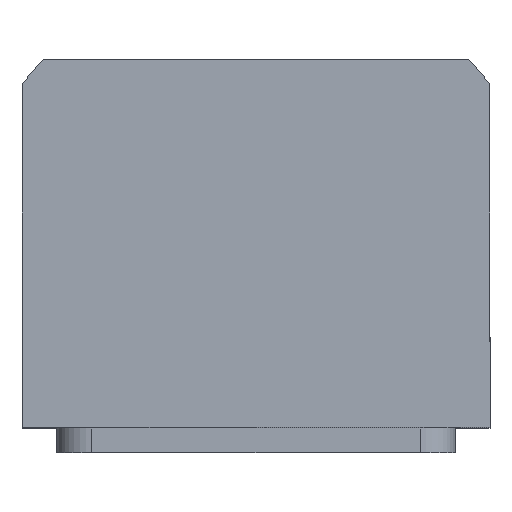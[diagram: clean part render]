
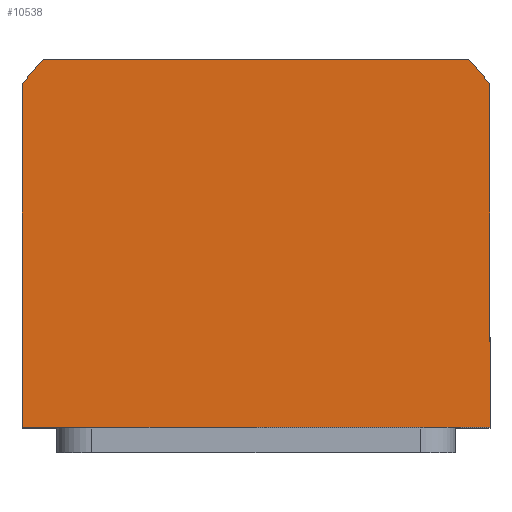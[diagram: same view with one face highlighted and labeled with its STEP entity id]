
A CAD part, top view. The second image highlights one B-rep face of the part: STEP entity #10538.
In plain terms, the highlighted planar face has unit normal (0, 0, 1).
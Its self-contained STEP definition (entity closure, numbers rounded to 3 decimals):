
#62 = DIRECTION ( 'NONE',  ( 1., 0., 0. ) ) ;
#65 = VECTOR ( 'NONE', #11016, 1000. ) ;
#91 = EDGE_CURVE ( 'NONE', #9975, #10352, #5357, .T. ) ;
#131 = DIRECTION ( 'NONE',  ( 0., 0., 1. ) ) ;
#189 = EDGE_LOOP ( 'NONE', ( #6609, #10237, #848, #10947, #6683, #8842 ) ) ;
#848 = ORIENTED_EDGE ( 'NONE', *, *, #9955, .T. ) ;
#998 = VECTOR ( 'NONE', #5692, 1000. ) ;
#1006 = CARTESIAN_POINT ( 'NONE',  ( 47., -34., 52.5 ) ) ;
#1263 = LINE ( 'NONE', #1273, #998 ) ;
#1273 = CARTESIAN_POINT ( 'NONE',  ( -42.688, 40., 52.5 ) ) ;
#1865 = AXIS2_PLACEMENT_3D ( 'NONE', #10398, #131, #2852 ) ;
#2442 = AXIS2_PLACEMENT_3D ( 'NONE', #5275, #5315, #62 ) ;
#2534 = PLANE ( 'NONE',  #1865 ) ;
#2646 = EDGE_CURVE ( 'NONE', #4847, #9975, #3925, .T. ) ;
#2685 = VERTEX_POINT ( 'NONE', #6067 ) ;
#2852 = DIRECTION ( 'NONE',  ( 1., 0., 0. ) ) ;
#3156 = DIRECTION ( 'NONE',  ( 1., 0., 0. ) ) ;
#3644 = CIRCLE ( 'NONE', #5027, 58.5 ) ;
#3925 = CIRCLE ( 'NONE', #2442, 58.5 ) ;
#4179 = EDGE_CURVE ( 'NONE', #10352, #8252, #5394, .T. ) ;
#4229 = DIRECTION ( 'NONE',  ( 0., 0., 1. ) ) ;
#4817 = VERTEX_POINT ( 'NONE', #7744 ) ;
#4847 = VERTEX_POINT ( 'NONE', #10373 ) ;
#5027 = AXIS2_PLACEMENT_3D ( 'NONE', #9454, #4229, #10220 ) ;
#5078 = CARTESIAN_POINT ( 'NONE',  ( -47., 34.832, 52.5 ) ) ;
#5221 = CARTESIAN_POINT ( 'NONE',  ( -47., -34., 52.5 ) ) ;
#5275 = CARTESIAN_POINT ( 'NONE',  ( 0., 0., 52.5 ) ) ;
#5315 = DIRECTION ( 'NONE',  ( 0., 0., 1. ) ) ;
#5357 = LINE ( 'NONE', #10906, #7116 ) ;
#5394 = LINE ( 'NONE', #9105, #9325 ) ;
#5692 = DIRECTION ( 'NONE',  ( -1., 0., 0. ) ) ;
#5703 = DIRECTION ( 'NONE',  ( 0., -1., 0. ) ) ;
#6067 = CARTESIAN_POINT ( 'NONE',  ( 42.688, 40., 52.5 ) ) ;
#6609 = ORIENTED_EDGE ( 'NONE', *, *, #4179, .T. ) ;
#6683 = ORIENTED_EDGE ( 'NONE', *, *, #2646, .T. ) ;
#6764 = EDGE_CURVE ( 'NONE', #8252, #4817, #9634, .T. ) ;
#7116 = VECTOR ( 'NONE', #5703, 1000. ) ;
#7650 = FACE_OUTER_BOUND ( 'NONE', #189, .T. ) ;
#7744 = CARTESIAN_POINT ( 'NONE',  ( 47., 34.832, 52.5 ) ) ;
#8252 = VERTEX_POINT ( 'NONE', #1006 ) ;
#8372 = EDGE_CURVE ( 'NONE', #2685, #4847, #1263, .T. ) ;
#8842 = ORIENTED_EDGE ( 'NONE', *, *, #91, .T. ) ;
#9105 = CARTESIAN_POINT ( 'NONE',  ( 47., -34., 52.5 ) ) ;
#9325 = VECTOR ( 'NONE', #3156, 1000. ) ;
#9454 = CARTESIAN_POINT ( 'NONE',  ( 0., 0., 52.5 ) ) ;
#9634 = LINE ( 'NONE', #10155, #65 ) ;
#9955 = EDGE_CURVE ( 'NONE', #4817, #2685, #3644, .T. ) ;
#9975 = VERTEX_POINT ( 'NONE', #5078 ) ;
#10155 = CARTESIAN_POINT ( 'NONE',  ( 47., 34.832, 52.5 ) ) ;
#10220 = DIRECTION ( 'NONE',  ( 1., 0., 0. ) ) ;
#10237 = ORIENTED_EDGE ( 'NONE', *, *, #6764, .T. ) ;
#10352 = VERTEX_POINT ( 'NONE', #5221 ) ;
#10373 = CARTESIAN_POINT ( 'NONE',  ( -42.688, 40., 52.5 ) ) ;
#10398 = CARTESIAN_POINT ( 'NONE',  ( 0., 0., 52.5 ) ) ;
#10538 = ADVANCED_FACE ( 'NONE', ( #7650 ), #2534, .T. ) ;
#10906 = CARTESIAN_POINT ( 'NONE',  ( -47., -34., 52.5 ) ) ;
#10947 = ORIENTED_EDGE ( 'NONE', *, *, #8372, .T. ) ;
#11016 = DIRECTION ( 'NONE',  ( 0., 1., 0. ) ) ;
